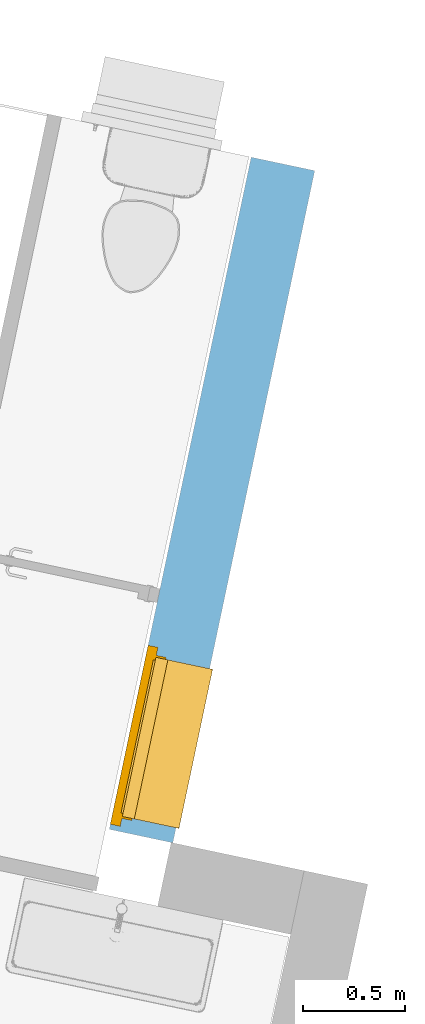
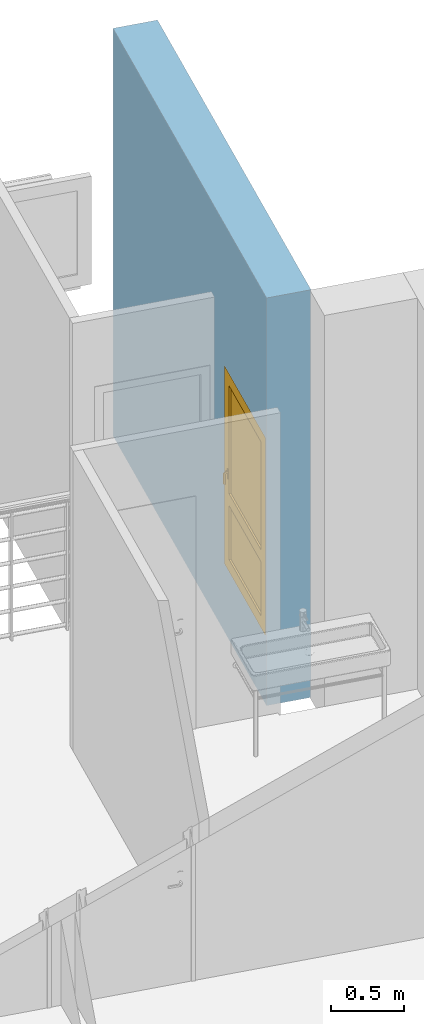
"""IFC2X3 building model written with IfcOpenShell, lengths in metres."""

from ifc_helpers import new_model, entity, si_unit, converted_unit, derived_unit, direction, frame, origin, place, context, subcontext, project, spatial, polyline, outline, extrude, faceted_brep, source, transform, mapped, material, material_list, layer, layer_set, layer_usage, type_object, type_shapes, element, fill, save


model = new_model("IFC2X3")

# Units and contexts
model_context = context("Model", 3, precision=1e-05, world=origin(), true_north=direction((6.12303176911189e-17, 1.0)))
body_context = subcontext(model_context, "Body", "Model", "MODEL_VIEW")
ifc_project = project(units=[si_unit("LENGTHUNIT", "METRE"), si_unit("AREAUNIT", "SQUARE_METRE"), si_unit("VOLUMEUNIT", "CUBIC_METRE"), converted_unit("PLANEANGLEUNIT", "DEGREE", entity("IfcRatioMeasure", 0.0174532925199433), si_unit("PLANEANGLEUNIT", "RADIAN"), dimensions=[0, 0, 0, 0, 0, 0, 0]), si_unit("MASSUNIT", "GRAM", prefix="KILO"), derived_unit("MASSDENSITYUNIT", [(si_unit("MASSUNIT", "GRAM", prefix="KILO"), 1), (si_unit("LENGTHUNIT", "METRE"), -3)]), si_unit("TIMEUNIT", "SECOND"), si_unit("FREQUENCYUNIT", "HERTZ"), si_unit("THERMODYNAMICTEMPERATUREUNIT", "DEGREE_CELSIUS"), derived_unit("THERMALTRANSMITTANCEUNIT", [(si_unit("MASSUNIT", "GRAM", prefix="KILO"), 1), (si_unit("THERMODYNAMICTEMPERATUREUNIT", "KELVIN"), -1), (si_unit("TIMEUNIT", "SECOND"), -3)]), derived_unit("VOLUMETRICFLOWRATEUNIT", [(si_unit("LENGTHUNIT", "METRE"), 3), (si_unit("TIMEUNIT", "SECOND"), -1)]), si_unit("ELECTRICCURRENTUNIT", "AMPERE"), si_unit("ELECTRICVOLTAGEUNIT", "VOLT"), si_unit("POWERUNIT", "WATT"), si_unit("FORCEUNIT", "NEWTON", prefix="KILO"), si_unit("ILLUMINANCEUNIT", "LUX"), si_unit("LUMINOUSFLUXUNIT", "LUMEN"), si_unit("LUMINOUSINTENSITYUNIT", "CANDELA"), derived_unit("USERDEFINED", [(si_unit("MASSUNIT", "GRAM", prefix="KILO"), -1), (si_unit("LENGTHUNIT", "METRE"), -2), (si_unit("TIMEUNIT", "SECOND"), 3), (si_unit("LUMINOUSFLUXUNIT", "LUMEN"), 1)]), derived_unit("LINEARVELOCITYUNIT", [(si_unit("LENGTHUNIT", "METRE"), 1), (si_unit("TIMEUNIT", "SECOND"), -1)]), si_unit("PRESSUREUNIT", "PASCAL"), derived_unit("USERDEFINED", [(si_unit("LENGTHUNIT", "METRE"), -2), (si_unit("MASSUNIT", "GRAM", prefix="KILO"), 1), (si_unit("TIMEUNIT", "SECOND"), -2)])], contexts=[model_context])

# Site, building, storey
site_placement = place(None, origin())
site = spatial("IfcSite", under=ifc_project, at=site_placement, Name="Default", CompositionType="ELEMENT")
building_placement = place(site_placement, origin())
building = spatial("IfcBuilding", under=site, at=building_placement, CompositionType="ELEMENT")
storey_1_placement = place(building_placement, frame((0.0, 0.0, 2.8)))
storey_1 = spatial("IfcBuildingStorey", under=building, at=storey_1_placement, Name="ETAGE", CompositionType="ELEMENT", Elevation=2.8)

# Wall, opening
ifc_material_1 = material(Name="Enduit blanc cassé2")
ifc_layer_1 = layer(ifc_material_1, 0.02)
ifc_material_2 = material(Name="Parpaing")
ifc_layer_2 = layer(ifc_material_2, 0.2)
ifc_material_3 = material(Name="Isolant")
ifc_layer_3 = layer(ifc_material_3, 0.1)
ifc_layer_set = layer_set([ifc_layer_1, ifc_layer_2, ifc_layer_3], Name="Mur de base:Ext. Parpaing 20 + Isolant 10 enduit blanc cassé")
ifc_layer_usage = layer_usage(ifc_layer_set, "AXIS2", "NEGATIVE", 0.16)
wall_type = type_object("IfcWallType", Name="Mur de base:Ext. Parpaing 20 + Isolant 10 enduit blanc cassé", PredefinedType="STANDARD", material=ifc_layer_set)
wall_placement = place(storey_1_placement, frame((-10.4845633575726, 84.9766816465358, 0.0), z_axis=(0.0, 0.0, 1.0), x_axis=(-0.206544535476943, -0.978437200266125, 0.0)))
wall = element("IfcWallStandardCase", 1, at=wall_placement, inside=storey_1, type_object=wall_type, material=ifc_layer_usage, Name="Mur de base:Ext. Parpaing 20 + Isolant 10 enduit blanc cassé", ObjectType="Mur de base:Ext. Parpaing 20 + Isolant 10 enduit blanc cassé", context=body_context, shape_type="SweptSolid", body=[
    extrude(outline(polyline([(3.38000155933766, -0.159999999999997), (3.38030079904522, 0.151524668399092), (3.38030894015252, 0.16), (0.000307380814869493, 0.160000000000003), (0.0, -0.159999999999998), (3.38000155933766, -0.159999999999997)])), origin(), (0.0, 0.0, 1.0), 3.4),
])
opening_placement = place(wall_placement, frame((3.50668078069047, -0.457339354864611, 0.494039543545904), z_axis=(0.0, 0.0, 1.0), x_axis=(-0.206544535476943, 0.978437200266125, 0.0)))
opening = element("IfcOpeningElement", 2, at=opening_placement, cuts=wall, Name="Mur de base:Ext. Parpaing 20 + Isolant 10 enduit blanc cassé", ObjectType="Opening", context=body_context, shape_type="Brep", body=[
    faceted_brep([(0.576179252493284, 0.902545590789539, 0.0759604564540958), (0.595747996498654, 0.898414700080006, 0.0759604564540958), (0.595747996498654, 0.898414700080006, 1.67596045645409), (1.14367282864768, 0.782749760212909, 1.67596045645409), (1.14367282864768, 0.782749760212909, 0.0), (0.576179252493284, 0.902545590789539, 0.0609604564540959), (0.0, 0.206544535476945, 0.0759604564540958), (0.332668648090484, 0.13631939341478, 0.0759604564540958), (0.332668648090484, 0.13631939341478, 1.67596045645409), (0.0, 0.206544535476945, 1.67596045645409), (0.165235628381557, 0.989294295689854, 0.0759604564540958), (0.497904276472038, 0.919069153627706, 0.0759604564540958), (0.508231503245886, 0.967991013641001, 0.0759604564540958), (0.557153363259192, 0.957663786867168, 0.0759604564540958), (0.548891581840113, 0.918526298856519, 0.0759604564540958), (0.597813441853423, 0.908199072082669, 0.0759604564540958), (0.410943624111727, 0.119795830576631, 0.0759604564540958), (0.430512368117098, 0.115664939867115, 0.0759604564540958), (0.428446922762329, 0.105880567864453, 0.0759604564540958), (0.379525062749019, 0.116207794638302, 0.0759604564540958), (0.371263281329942, 0.0770703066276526, 0.0759604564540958), (0.322341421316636, 0.0873975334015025, 0.0759604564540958), (0.165235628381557, 0.989294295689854, 1.67596045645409), (0.430512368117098, 0.11566493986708, 1.67596045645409), (0.978437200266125, 0.0, 1.67596045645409), (0.978437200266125, 0.0, 0.0), (0.410943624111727, 0.119795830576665, 0.0609604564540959), (0.508231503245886, 0.967991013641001, 1.72596045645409), (0.557153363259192, 0.957663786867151, 1.72596045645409), (0.371263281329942, 0.0770703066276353, 1.72596045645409), (0.379525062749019, 0.116207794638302, 1.68596045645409), (0.548891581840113, 0.918526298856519, 1.68596045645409), (0.597813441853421, 0.908199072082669, 1.68596045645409), (0.428446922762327, 0.105880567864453, 1.68596045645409), (0.497904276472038, 0.919069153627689, 1.67596045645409), (0.322341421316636, 0.0873975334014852, 1.72596045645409)], [[[0, 1, 2, 3, 4, 5]], [[6, 7, 8, 9]], [[10, 11, 12, 13, 14, 15, 1, 0, 16, 17, 18, 19, 20, 21, 7, 6]], [[10, 6, 9, 22]], [[3, 2, 23, 24]], [[3, 24, 25, 4]], [[4, 25, 26, 5]], [[5, 26, 16, 0]], [[12, 27, 28, 13]], [[13, 28, 29, 20, 19, 30, 31, 14]], [[14, 31, 32, 15]], [[15, 32, 33, 18, 17, 23, 2, 1]], [[11, 34, 8, 7, 21, 35, 27, 12]], [[27, 35, 29, 28]], [[30, 33, 32, 31]], [[29, 35, 21, 20]], [[19, 18, 33, 30]], [[9, 8, 34, 22]], [[24, 23, 17, 16, 26, 25]], [[22, 34, 11, 10]]]),
])

# Storey
storey_2_placement = place(building_placement, frame((0.0, 0.0, 2.82)))
storey_2 = spatial("IfcBuildingStorey", under=building, at=storey_2_placement, Name="Etage 1", CompositionType="ELEMENT", Elevation=2.82)

# Window
ifc_material_4 = material(Name="Fenêtre - Poignée")
ifc_material_5 = material(Name="Fenêtre - Appui")
ifc_material_6 = material(Name="Fenêtre - Vitrage")
ifc_material_7 = material(Name="PVC - Gris foncé")
ifc_material_list_1 = material_list([ifc_material_4, ifc_material_5, ifc_material_6, ifc_material_7])
ifc_material_list_2 = material_list([ifc_material_4, ifc_material_5, ifc_material_6, ifc_material_7])
window_style = type_object("IfcWindowStyle", Name="0.80 x 1.60 HT", ConstructionType="NOTDEFINED", OperationType="DOUBLE_PANEL_HORIZONTAL", ParameterTakesPrecedence=False, Sizeable=False, material=ifc_material_list_2)
shared_shape = source(origin(), body_context, "Body", "Brep", [
    faceted_brep([(0.0806460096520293, -0.66600000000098, 0.897994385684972), (0.0820339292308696, -0.66600000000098, 0.896606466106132), (0.0820339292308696, -0.66600000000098, 0.885292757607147), (0.080667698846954, -0.66600000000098, 0.883926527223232), (0.0693323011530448, -0.66600000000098, 0.883926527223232), (0.0679660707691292, -0.66600000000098, 0.885292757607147), (0.0679660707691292, -0.66600000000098, 0.896606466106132), (0.0693539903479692, -0.66600000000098, 0.897994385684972), (0.0806460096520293, -0.678913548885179, 0.897994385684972), (0.0820339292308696, -0.67833865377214, 0.896606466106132), (0.0820339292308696, -0.69164600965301, 0.883299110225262), (0.0820339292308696, -0.69164600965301, 0.795960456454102), (0.0820339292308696, -0.680332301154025, 0.795960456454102), (0.0820339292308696, -0.680332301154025, 0.878612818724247), (0.0820339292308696, -0.673652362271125, 0.885292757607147), (0.080667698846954, -0.673086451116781, 0.883926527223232), (0.0693323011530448, -0.673086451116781, 0.883926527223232), (0.0679660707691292, -0.673652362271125, 0.885292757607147), (0.0679660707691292, -0.680332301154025, 0.878612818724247), (0.0679660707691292, -0.680332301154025, 0.795960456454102), (0.0679660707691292, -0.69164600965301, 0.795960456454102), (0.0679660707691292, -0.69164600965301, 0.883299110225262), (0.0679660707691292, -0.67833865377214, 0.896606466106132), (0.0693539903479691, -0.678913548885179, 0.897994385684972), (0.0806460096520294, -0.69303392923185, 0.883874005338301), (0.080667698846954, -0.67896607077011, 0.878046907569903), (0.0693323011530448, -0.678966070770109, 0.878046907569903), (0.0693539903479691, -0.69303392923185, 0.883874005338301), (0.0806460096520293, -0.69303392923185, 0.795960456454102), (0.0693539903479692, -0.69303392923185, 0.795960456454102), (0.0693323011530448, -0.678966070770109, 0.795960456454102), (0.080667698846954, -0.678966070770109, 0.795960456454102)], [[[0, 1, 2, 3, 4, 5, 6, 7]], [[1, 0, 8, 9]], [[2, 1, 9, 10, 11, 12, 13, 14]], [[3, 2, 14, 15]], [[4, 3, 15, 16]], [[5, 4, 16, 17]], [[6, 5, 17, 18, 19, 20, 21, 22]], [[7, 6, 22, 23]], [[0, 7, 23, 8]], [[9, 8, 24, 10]], [[15, 14, 13, 25]], [[16, 15, 25, 26]], [[17, 16, 26, 18]], [[23, 22, 21, 27]], [[8, 23, 27, 24]], [[28, 29, 20, 19, 30, 31, 12, 11]], [[10, 24, 28, 11]], [[25, 13, 12, 31]], [[26, 25, 31, 30]], [[18, 26, 30, 19]], [[27, 21, 20, 29]], [[24, 27, 29, 28]]]),
    faceted_brep([(0.0820000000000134, -0.666000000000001, 0.915960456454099), (0.0679999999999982, -0.666000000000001, 0.915960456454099), (0.0629999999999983, -0.666000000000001, 0.9109604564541), (0.0629999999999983, -0.666000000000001, 0.840960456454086), (0.0679999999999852, -0.666000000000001, 0.835960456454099), (0.0820000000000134, -0.666000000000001, 0.835960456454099), (0.0869999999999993, -0.666000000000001, 0.840960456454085), (0.0869999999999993, -0.666000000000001, 0.9109604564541), (0.0820000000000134, -0.660000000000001, 0.915960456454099), (0.0869999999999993, -0.660000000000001, 0.9109604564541), (0.0869999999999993, -0.660000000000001, 0.840960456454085), (0.0820000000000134, -0.660000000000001, 0.835960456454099), (0.0679999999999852, -0.660000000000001, 0.835960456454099), (0.0629999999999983, -0.660000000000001, 0.840960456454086), (0.0629999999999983, -0.660000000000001, 0.9109604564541), (0.0679999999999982, -0.660000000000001, 0.915960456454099)], [[[0, 1, 2, 3, 4, 5, 6, 7]], [[8, 9, 10, 11, 12, 13, 14, 15]], [[1, 0, 8, 15]], [[2, 1, 15, 14]], [[3, 2, 14, 13]], [[4, 3, 13, 12]], [[5, 4, 12, 11]], [[6, 5, 11, 10]], [[7, 6, 10, 9]], [[0, 7, 9, 8]]]),
    faceted_brep([(0.85, -0.324999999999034, 0.0394140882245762), (0.85, -0.574999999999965, 0.0656901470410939), (0.85, -0.574999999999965, 0.0759604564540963), (0.85, -0.579999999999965, 0.0759604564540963), (0.85, -0.579999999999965, 0.0609604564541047), (0.85, -0.329999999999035, 0.034684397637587), (0.85, -0.329999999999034, 0.0243838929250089), (0.85, -0.324999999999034, 0.0238583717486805), (0.0499999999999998, -0.324999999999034, 0.0394140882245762), (0.0499999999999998, -0.324999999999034, 0.0238583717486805), (0.0499999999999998, -0.329999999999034, 0.0243838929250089), (0.0499999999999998, -0.329999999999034, 0.034684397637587), (0.0499999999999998, -0.579999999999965, 0.0609604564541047), (0.0499999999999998, -0.579999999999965, 0.0759604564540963), (0.0499999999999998, -0.574999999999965, 0.0759604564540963), (0.0499999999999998, -0.574999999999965, 0.0656901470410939)], [[[0, 1, 2, 3, 4, 5, 6, 7]], [[8, 9, 10, 11, 12, 13, 14, 15]], [[1, 0, 8, 15]], [[2, 1, 15, 14]], [[3, 2, 14, 13]], [[4, 3, 13, 12]], [[5, 4, 12, 11]], [[6, 5, 11, 10]], [[7, 6, 10, 9]], [[0, 7, 9, 8]]]),
    faceted_brep([(0.0500000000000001, -0.324999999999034, 0.0408400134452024), (0.0500000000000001, -0.324999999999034, 0.0394140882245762), (0.0499999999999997, -0.574999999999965, 0.0656901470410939), (0.0499999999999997, -0.574999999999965, 0.0707176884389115), (0.0500000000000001, -0.328581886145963, 0.0448181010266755), (0.0500000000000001, -0.326027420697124, 0.0435165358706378), (0.0549999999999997, -0.574999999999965, 0.0707176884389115), (0.0549999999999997, -0.574999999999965, 0.0656901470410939), (0.0550000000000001, -0.324999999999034, 0.0394140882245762), (0.0550000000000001, -0.324999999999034, 0.0408400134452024), (0.0550000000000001, -0.326027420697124, 0.0435165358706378), (0.0550000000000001, -0.328581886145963, 0.0448181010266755)], [[[0, 1, 2, 3, 4, 5]], [[6, 7, 8, 9, 10, 11]], [[2, 1, 8, 7]], [[3, 2, 7, 6]], [[4, 3, 6, 11]], [[4, 11, 10, 5]], [[10, 9, 0, 5]], [[1, 0, 9, 8]]]),
    faceted_brep([(0.845, -0.324999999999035, 0.0408400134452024), (0.845, -0.324999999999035, 0.0394140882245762), (0.845, -0.574999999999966, 0.0656901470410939), (0.845, -0.574999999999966, 0.0707176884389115), (0.845, -0.328581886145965, 0.0448181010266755), (0.845, -0.326027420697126, 0.0435165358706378), (0.85, -0.574999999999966, 0.0707176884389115), (0.85, -0.574999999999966, 0.0656901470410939), (0.85, -0.324999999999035, 0.0394140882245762), (0.85, -0.324999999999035, 0.0408400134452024), (0.85, -0.326027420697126, 0.0435165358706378), (0.85, -0.328581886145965, 0.0448181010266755)], [[[0, 1, 2, 3, 4, 5]], [[6, 7, 8, 9, 10, 11]], [[2, 1, 8, 7]], [[3, 2, 7, 6]], [[4, 3, 6, 11]], [[4, 11, 10, 5]], [[10, 9, 0, 5]], [[1, 0, 9, 8]]]),
    faceted_brep([(0.0999999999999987, -0.634000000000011, 1.62596045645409), (0.8, -0.634000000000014, 1.62596045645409), (0.8, -0.634000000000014, 0.725960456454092), (0.0999999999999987, -0.634000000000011, 0.725960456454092), (0.0999999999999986, -0.646000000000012, 1.62596045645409), (0.8, -0.646000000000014, 1.62596045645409), (0.8, -0.646000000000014, 0.725960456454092), (0.0999999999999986, -0.646000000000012, 0.725960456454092)], [[[0, 1, 2, 3]], [[1, 0, 4, 5]], [[2, 1, 5, 6]], [[0, 3, 7, 4]], [[3, 2, 6, 7]], [[4, 7, 6, 5]]]),
    faceted_brep([(0.100000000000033, -0.634000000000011, 0.625960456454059), (0.100000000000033, -0.634000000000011, 0.17596045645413), (0.100000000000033, -0.646000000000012, 0.17596045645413), (0.100000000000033, -0.646000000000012, 0.625960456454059), (0.799999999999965, -0.634000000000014, 0.17596045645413), (0.799999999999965, -0.634000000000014, 0.625960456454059), (0.799999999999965, -0.646000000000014, 0.625960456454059), (0.799999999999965, -0.646000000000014, 0.17596045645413)], [[[0, 1, 2, 3]], [[4, 5, 6, 7]], [[1, 4, 7, 2]], [[2, 7, 6, 3]], [[5, 0, 3, 6]], [[1, 0, 5, 4]]]),
    faceted_brep([(0.0, -0.660000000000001, 0.0759604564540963), (0.0, -0.610000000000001, 0.0759604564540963), (0.0499999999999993, -0.610000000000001, 0.0759604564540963), (0.0499999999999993, -0.560000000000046, 0.0759604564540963), (0.849999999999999, -0.560000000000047, 0.0759604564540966), (0.849999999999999, -0.610000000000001, 0.0759604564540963), (0.899999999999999, -0.610000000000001, 0.0759604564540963), (0.899999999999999, -0.660000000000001, 0.0759604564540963), (0.0, -0.660000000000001, 1.72596045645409), (0.0, -0.610000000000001, 1.72596045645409), (0.899999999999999, -0.610000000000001, 1.72596045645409), (0.849999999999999, -0.610000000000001, 0.115336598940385), (0.0499999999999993, -0.610000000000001, 0.1153365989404), (0.0649999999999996, -0.610000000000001, 1.66096045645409), (0.0649999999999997, -0.610000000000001, 0.140960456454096), (0.834999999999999, -0.610000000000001, 0.140960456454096), (0.834999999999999, -0.610000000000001, 1.66096045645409), (0.0499999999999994, -0.550000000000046, 0.09925964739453), (0.0499999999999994, -0.550000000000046, 0.070960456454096), (0.0499999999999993, -0.560000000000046, 0.070960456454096), (0.849999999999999, -0.560000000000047, 0.070960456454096), (0.85, -0.550000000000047, 0.070960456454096), (0.85, -0.550000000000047, 0.09925964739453), (0.899999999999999, -0.660000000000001, 1.72596045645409), (0.85, -0.660000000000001, 1.67596045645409), (0.849999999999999, -0.660000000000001, 0.125960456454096), (0.0499999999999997, -0.660000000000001, 0.125960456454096), (0.0499999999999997, -0.660000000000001, 1.67596045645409), (0.0649999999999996, -0.620000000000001, 1.66096045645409), (0.0649999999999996, -0.620000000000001, 0.140960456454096), (0.834999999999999, -0.620000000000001, 0.140960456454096), (0.834999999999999, -0.620000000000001, 1.66096045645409), (0.85, -0.620000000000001, 1.67596045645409), (0.0499999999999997, -0.620000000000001, 1.67596045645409), (0.0499999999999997, -0.620000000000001, 0.125960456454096), (0.849999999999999, -0.620000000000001, 0.125960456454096)], [[[0, 1, 2, 3, 4, 5, 6, 7]], [[1, 0, 8, 9]], [[1, 9, 10, 6, 5, 11, 12, 2], [13, 14, 15, 16]], [[12, 17, 18, 19, 3, 2]], [[3, 19, 20, 4]], [[4, 20, 21, 22, 11, 5]], [[6, 10, 23, 7]], [[0, 7, 23, 8], [24, 25, 26, 27]], [[13, 28, 29, 14]], [[29, 30, 15, 14]], [[31, 16, 15, 30]], [[17, 12, 11, 22]], [[28, 31, 30, 29], [32, 33, 34, 35]], [[34, 33, 27, 26]], [[26, 25, 35, 34]], [[24, 32, 35, 25]], [[18, 17, 22, 21]], [[19, 18, 21, 20]], [[13, 16, 31, 28]], [[10, 9, 8, 23]], [[33, 32, 24, 27]]], outer=[[True], [True], [True, False], [True], [True], [True], [True], [True, False], [True], [True], [True], [True], [False, True], [True], [True], [True], [True], [True], [True], [True], [True]]),
    faceted_brep([(0.0499999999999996, -0.559999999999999, 0.0759604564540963), (0.0499999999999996, -0.610000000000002, 0.0759604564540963), (0.0399999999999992, -0.610000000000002, 0.0759604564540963), (0.0399999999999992, -0.559999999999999, 0.0759604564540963), (0.0499999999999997, -0.559999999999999, 1.67596045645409), (0.0499999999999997, -0.610000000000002, 1.67596045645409), (0.849999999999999, -0.610000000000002, 1.67596045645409), (0.849999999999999, -0.610000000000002, 0.075960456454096), (0.86, -0.610000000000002, 0.0759604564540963), (0.86, -0.610000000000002, 1.68596045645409), (0.0399999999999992, -0.610000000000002, 1.68596045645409), (0.0399999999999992, -0.559999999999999, 1.68596045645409), (0.86, -0.559999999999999, 1.68596045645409), (0.86, -0.559999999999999, 0.075960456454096), (0.849999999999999, -0.559999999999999, 0.0759604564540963), (0.85, -0.559999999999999, 1.67596045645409)], [[[0, 1, 2, 3]], [[1, 0, 4, 5]], [[2, 1, 5, 6, 7, 8, 9, 10]], [[3, 2, 10, 11]], [[0, 3, 11, 12, 13, 14, 15, 4]], [[6, 15, 14, 7]], [[14, 13, 8, 7]], [[12, 9, 8, 13]], [[5, 4, 15, 6]], [[11, 10, 9, 12]]]),
    faceted_brep([(0.0499999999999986, -0.619999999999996, 0.675960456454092), (0.0499999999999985, -0.659999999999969, 0.675960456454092), (0.0499999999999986, -0.659999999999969, 1.67596045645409), (0.0499999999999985, -0.619999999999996, 1.67596045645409), (0.85, -0.659999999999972, 0.675960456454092), (0.849999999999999, -0.659999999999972, 1.67596045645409), (0.0999999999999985, -0.659999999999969, 0.725960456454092), (0.0999999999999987, -0.659999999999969, 1.62596045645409), (0.8, -0.659999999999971, 1.62596045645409), (0.8, -0.659999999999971, 0.725960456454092), (0.85, -0.619999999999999, 1.67596045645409), (0.85, -0.619999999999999, 0.675960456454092), (0.8, -0.619999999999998, 0.725960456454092), (0.8, -0.619999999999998, 1.62596045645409), (0.0999999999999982, -0.619999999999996, 1.62596045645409), (0.0999999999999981, -0.619999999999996, 0.725960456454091)], [[[0, 1, 2, 3]], [[4, 5, 2, 1], [6, 7, 8, 9]], [[3, 2, 5, 10]], [[0, 3, 10, 11], [12, 13, 14, 15]], [[6, 15, 14, 7]], [[7, 14, 13, 8]], [[10, 5, 4, 11]], [[8, 13, 12, 9]], [[11, 4, 1, 0]], [[9, 12, 15, 6]]]),
    faceted_brep([(0.050000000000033, -0.659999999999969, 0.675960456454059), (0.0500000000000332, -0.620000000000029, 0.675960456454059), (0.0500000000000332, -0.620000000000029, 0.12596045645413), (0.0500000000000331, -0.659999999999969, 0.12596045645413), (0.100000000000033, -0.62000000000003, 0.17596045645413), (0.799999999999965, -0.620000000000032, 0.17596045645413), (0.799999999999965, -0.620000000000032, 0.625960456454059), (0.100000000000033, -0.62000000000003, 0.625960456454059), (0.849999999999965, -0.620000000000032, 0.675960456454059), (0.849999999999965, -0.620000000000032, 0.12596045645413), (0.849999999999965, -0.659999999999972, 0.12596045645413), (0.849999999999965, -0.659999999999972, 0.675960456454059), (0.100000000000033, -0.659999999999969, 0.625960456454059), (0.799999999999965, -0.659999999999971, 0.625960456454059), (0.799999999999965, -0.659999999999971, 0.17596045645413), (0.100000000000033, -0.659999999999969, 0.17596045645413)], [[[0, 1, 2, 3]], [[4, 5, 6, 7], [1, 8, 9, 2]], [[3, 2, 9, 10]], [[3, 10, 11, 0], [12, 13, 14, 15]], [[7, 12, 15, 4]], [[4, 15, 14, 5]], [[10, 9, 8, 11]], [[5, 14, 13, 6]], [[11, 8, 1, 0]], [[6, 13, 12, 7]]], outer=[[True], [False, True], [True], [True, False], [True], [True], [True], [True], [True], [True]]),
    faceted_brep([(0.835, -0.609999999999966, 0.690960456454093), (0.835, -0.620000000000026, 0.690960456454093), (0.835, -0.620000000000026, 0.660960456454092), (0.835, -0.609999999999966, 0.660960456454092), (0.0649999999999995, -0.609999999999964, 0.690960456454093), (0.0649999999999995, -0.609999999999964, 0.660960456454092), (0.0649999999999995, -0.620000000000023, 0.660960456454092), (0.0649999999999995, -0.620000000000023, 0.690960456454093)], [[[0, 1, 2, 3]], [[4, 5, 6, 7]], [[1, 0, 4, 7]], [[2, 1, 7, 6]], [[3, 2, 6, 5]], [[0, 3, 5, 4]]]),
])
type_shapes(window_style, [shared_shape])
window_placement = place(opening_placement, frame((1.15400005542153, 0.831671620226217, 0.0), z_axis=(0.0, 0.0, 1.0), x_axis=(-0.206544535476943, -0.978437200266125, 0.0)))
window = element("IfcWindow", 3, at=window_placement, inside=storey_2, type_object=window_style, material=ifc_material_list_1, Name="1 Vantail - Imposte basse:0.80 x 1.60 HT", ObjectType="1 Vantail - Imposte basse:0.80 x 1.60 HT", OverallHeight=1.72999999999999, OverallWidth=0.9, context=body_context, shape_type="MappedRepresentation", body=[
    mapped(shared_shape, transform((0.0, 0.0, 0.0), scale=1.0)),
])

fill(opening, window)

save(model, "model.ifc")
